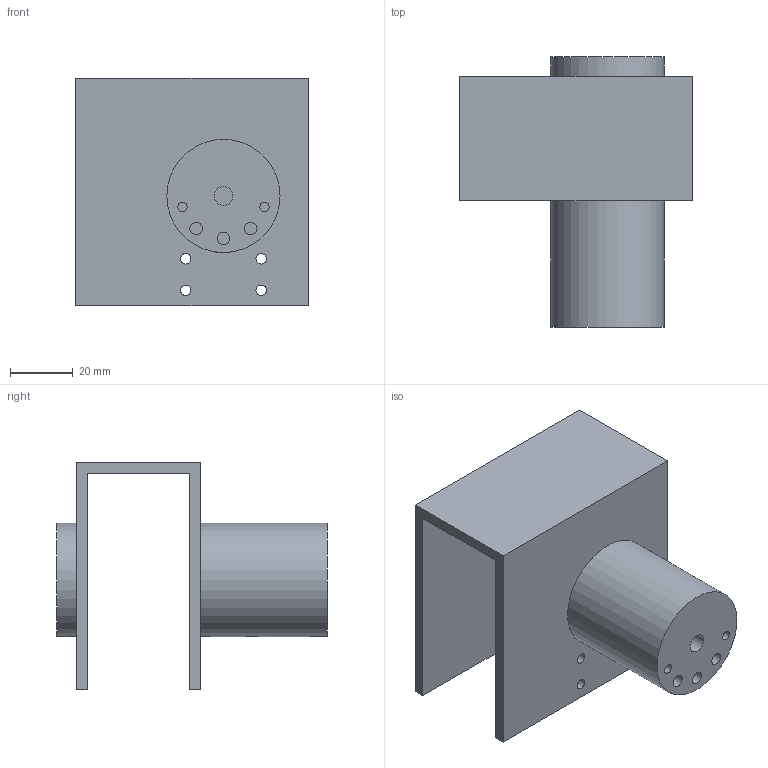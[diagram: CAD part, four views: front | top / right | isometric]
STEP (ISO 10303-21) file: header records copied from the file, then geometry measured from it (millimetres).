
FILE_DESCRIPTION(('Open CASCADE Model'),'2;1');
FILE_NAME('Open CASCADE Shape Model','2026-10-17T23:13:30',('Author'),( 'Open CASCADE'),'Open CASCADE STEP processor 7.9','Open CASCADE 7.9' ,'Unknown');
FILE_SCHEMA(('AUTOMOTIVE_DESIGN { 1 0 10303 214 1 1 1 1 }'));
Length unit declared in the file: millimetre
Products named in the file (1): Open CASCADE STEP translator 7.9 4
Bounding box: 74 x 86 x 72.5 mm (x, y, z)
Volume: 83266.3 mm3; surface area: 36513.8 mm2
Topology: 1 solids, 1 shells, 39 faces, 81 edges, 54 vertices
Faces by surface type: plane 20, cylinder 19
Full cylindrical faces by diameter (mm): 3 x2, 3.3 x8, 4 x4, 6 x1, 7 x1, 20 x1, 36 x2
Entity records: 2500 total; most frequent: CARTESIAN_POINT 731, DIRECTION 341, ORIENTED_EDGE 162, PCURVE 162, DEFINITIONAL_REPRESENTATION 162, LINE 161, VECTOR 161, EDGE_CURVE 81
